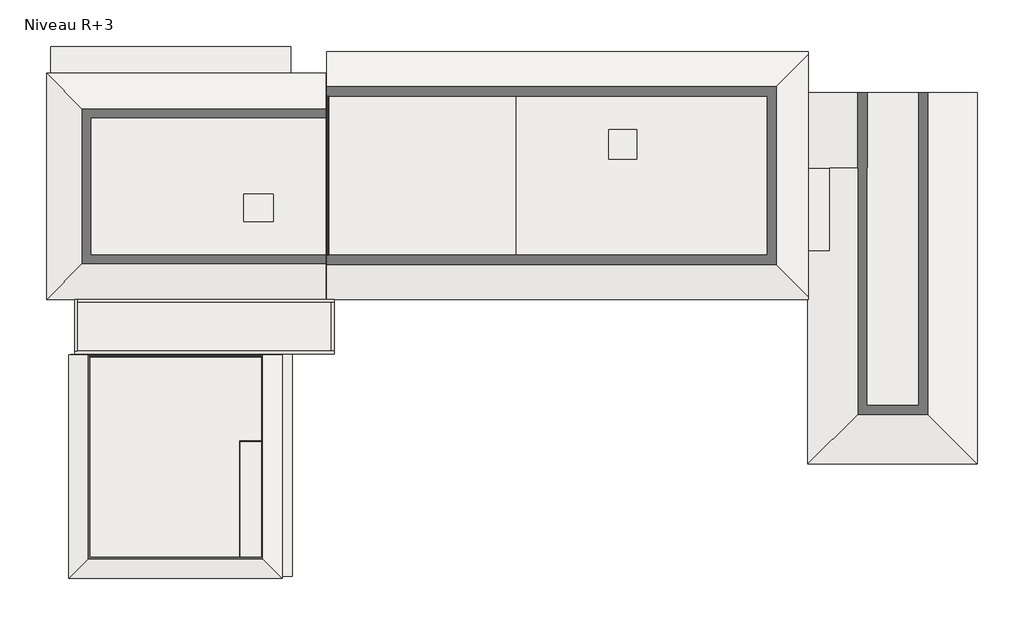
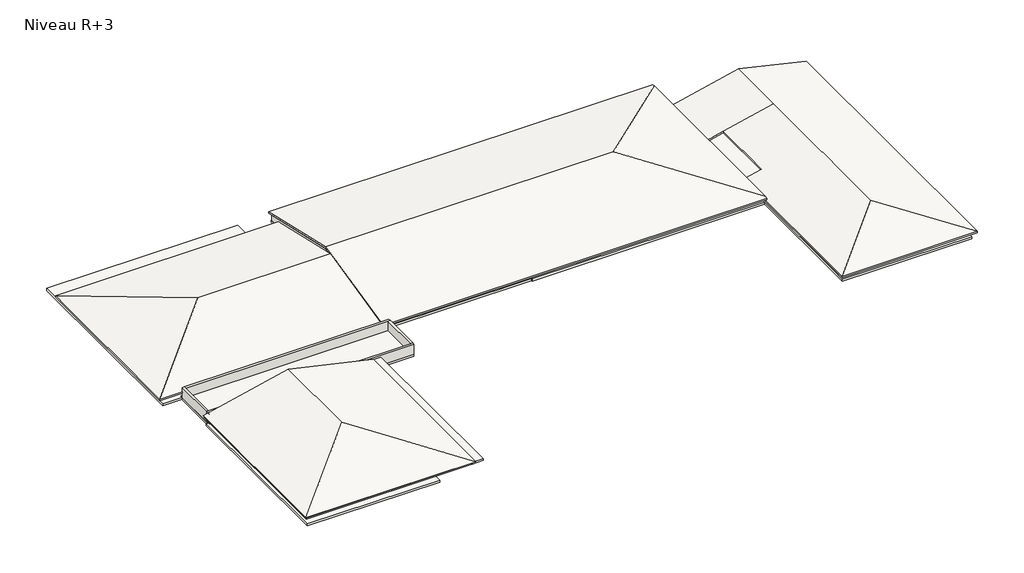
# One storey: 14 walls, 12 slabs, 4 roofs.
"""IFC4 building model written with IfcOpenShell, lengths in millimetres."""

from ifc_helpers import new_model, si_unit, frame, origin, place, context, project, spatial, polyline, outline, extrude, faceted_brep, element, save

model = new_model("IFC4")

# Units and contexts
model_context = context("Model", 3, world=origin())
ifc_project = project(units=[si_unit("LENGTHUNIT", "METRE", prefix="MILLI")], contexts=[model_context])

# Site, building, storey
site = spatial("IfcSite", under=ifc_project)
building = spatial("IfcBuilding", under=site)
storey = spatial("IfcBuildingStorey", under=building, Name="Niveau R+3", Elevation=8850.0)

# Roofs
placement = place(None, origin())
element("IfcRoof", 1, ObjectType="Toit - 200 mm + tuiles", at=placement, inside=storey, context=model_context, shape_type="Brep", body=[
    faceted_brep([(23819.3795366, 30810.6398567, 9297.1019058), (23819.3795366, 22475.7382882, 11221.3655541), (11571.8074134, 22475.7382882, 11221.3655541), (3236.9058449, 30810.6398567, 9297.1019058), (3236.9058449, 14140.8367198, 9297.1019058), (23819.3795366, 14140.8367198, 9297.1019058), (23819.3795366, 30810.6398567, 9451.047522), (3236.9058449, 30810.6398567, 9451.047522), (11571.8074134, 22475.7382882, 11375.3111703), (23819.3795366, 22475.7382882, 11375.3111703), (3236.9058449, 14140.8367198, 9451.047522), (23819.3795366, 14140.8367198, 9451.047522)], [[[0, 1, 2, 3]], [[3, 2, 4]], [[1, 5, 4, 2]], [[6, 7, 8, 9]], [[7, 10, 8]], [[11, 9, 8, 10]], [[3, 7, 6, 0]], [[4, 10, 7, 3]], [[5, 11, 10, 4]], [[6, 9, 11, 5, 1, 0]]]),
])
element("IfcRoof", 2, ObjectType="Toit - 200 mm + tuiles", at=placement, inside=storey, context=model_context, shape_type="Brep", body=[
    faceted_brep([(23872.0202028, 23272.667669, 11406.0434878), (23872.0202028, 32407.4972516, 9297.1019058), (59352.9059955, 32407.4972516, 9297.1019058), (59352.9059955, 32178.3704327, 9350.0), (50447.2032318, 23272.667669, 11406.0434878), (23872.0202028, 14137.8380864, 9297.1019058), (59352.9059955, 14366.9649053, 9350.0), (59352.9059955, 14137.8380864, 9297.1019058), (23872.0202028, 32407.4972516, 9451.047522), (23872.0202028, 23272.667669, 11559.9891039), (50447.2032318, 23272.667669, 11559.9891039), (59352.9059955, 32178.3704327, 9503.9456162), (59352.9059955, 32407.4972516, 9451.047522), (23872.0202028, 14137.8380864, 9451.047522), (59352.9059955, 14137.8380864, 9451.047522), (59352.9059955, 14366.9649053, 9503.9456162)], [[[0, 1, 2, 3, 4]], [[5, 0, 4, 6, 7]], [[8, 9, 10, 11, 12]], [[13, 14, 15, 10, 9]], [[7, 14, 13, 5]], [[1, 8, 12, 2]], [[13, 9, 8, 1, 0, 5]], [[6, 4, 3]], [[15, 11, 10]], [[3, 11, 15, 6]], [[15, 14, 7, 6]], [[12, 11, 3, 2]]]),
])
element("IfcRoof", 3, ObjectType="Toit - 200 mm + tuiles", at=placement, inside=storey, context=model_context, shape_type="Brep", body=[
    faceted_brep([(60932.9059955, 17712.0868793, 9419.3891058), (60932.9059955, 23812.0868793, 9419.3891058), (65576.6019279, 23812.0868793, 10491.4707859), (65576.6019279, 8247.7229252, 10491.4707859), (59332.9059955, 2004.0269927, 9050.0), (59332.9059955, 17712.0868793, 9050.0), (59353.0074525, 23812.0868793, 9050.0), (59353.0074525, 29401.5866004, 9050.0), (65586.6526564, 29401.5866004, 10489.1503924), (65586.6526564, 23812.0868793, 10489.1503924), (60932.9059955, 23812.0868793, 9414.7483188), (71820.2978604, 29401.5866004, 9050.0), (71820.2978604, 2004.0269927, 9050.0), (60932.9059955, 23812.0868793, 9573.334722), (60932.9059955, 17712.0868793, 9573.334722), (59332.9059955, 17712.0868793, 9203.9456162), (59332.9059955, 2004.0269927, 9203.9456162), (65576.6019279, 8247.7229252, 10645.416402), (65576.6019279, 23812.0868793, 10645.416402), (59353.0074525, 29401.5866004, 9203.9456162), (59353.0074525, 23812.0868793, 9203.9456162), (60932.9059955, 23812.0868793, 9568.693935), (65586.6526564, 23812.0868793, 10643.0960085), (65586.6526564, 29401.5866004, 10643.0960085), (71820.2978604, 29401.5866004, 9203.9456162), (71820.2978604, 2004.0269927, 9203.9456162)], [[[0, 1, 2, 3, 4, 5]], [[6, 7, 8, 9, 10]], [[8, 11, 12, 3, 2, 9]], [[4, 3, 12]], [[13, 14, 15, 16, 17, 18]], [[19, 20, 21, 22, 23]], [[24, 23, 22, 18, 17, 25]], [[16, 25, 17]], [[6, 20, 19, 7]], [[4, 16, 15, 5]], [[12, 25, 16, 4]], [[11, 24, 25, 12]], [[19, 23, 24, 11, 8, 7]], [[15, 14, 0, 5]], [[14, 13, 21, 1, 0]], [[13, 18, 22, 21]], [[21, 20, 6, 10, 9, 2, 1]]]),
])
element("IfcRoof", 4, ObjectType="Toit - bac acier", at=placement, inside=storey, context=model_context, shape_type="Brep", body=[
    faceted_brep([(4884.2512184, -6405.1620119, 9697.1019058), (12744.1164274, 1454.7031971, 11511.6947691), (20603.9816364, -6405.1620119, 9697.1019058), (12744.1164274, 10065.4658562, 11511.6947691), (20603.9816364, 10065.4658562, 9697.1019058), (4884.2512184, 10065.4658562, 9697.1019058), (4884.2512184, -6405.1620119, 9717.6279879), (20603.9816364, -6405.1620119, 9717.6279879), (12744.1164274, 1454.7031971, 11532.2208512), (20603.9816364, 10065.4658562, 9717.6279879), (12744.1164274, 10065.4658562, 11532.2208512), (4884.2512184, 10065.4658562, 9717.6279879)], [[[0, 1, 2]], [[3, 4, 2, 1]], [[5, 3, 1, 0]], [[6, 7, 8]], [[9, 10, 8, 7]], [[11, 6, 8, 10]], [[0, 6, 11, 5]], [[2, 7, 6, 0]], [[4, 9, 7, 2]], [[11, 10, 9, 4, 3, 5]]]),
])

# Slabs
element("IfcSlab", 5, ObjectType="Dalle en béton - 200 mm", at=placement, inside=storey, context=model_context, shape_type="SweptSolid", body=[
    extrude(outline(polyline([(5329.893812, 10125.4652425), (5329.893812, 14425.39158), (24415.2280188, 14425.39158), (24415.2280188, 10125.4652425), (5329.893812, 10125.4652425)])), frame((0.0, 0.0, 8650.0), z_axis=(0.0, 0.0, 1.0), x_axis=(1.0, 0.0, 0.0)), (0.0, 0.0, 1.0), 200.0),
])
element("IfcSlab", 6, ObjectType="Dalle en béton - 200 mm", at=placement, inside=storey, context=model_context, shape_type="Brep", body=[
    faceted_brep([(5184.2512184, 10065.4658562, 8650.0), (20303.9816364, 10065.4658562, 8650.0), (20303.9816364, 3735.465256, 8650.0), (17422.934101, 3735.465256, 8650.0), (17422.934101, -6105.1620119, 8650.0), (5184.2512184, -6105.1620119, 8650.0), (5184.2512184, 10065.4658562, 8850.0), (5184.2512184, -6105.1620119, 8850.0), (17422.934101, -6105.1620119, 8850.0), (17422.934101, 3735.465256, 8850.0), (20303.9816364, 3735.465256, 8850.0), (20303.9816364, 10065.4658562, 8850.0), (20155.920738, 10065.4658562, 8850.0), (5344.2512184, 10065.4658562, 8850.0)], [[[0, 1, 2, 3, 4, 5]], [[6, 7, 8, 9, 10, 11, 12, 13]], [[1, 0, 6, 13, 12, 11]], [[2, 1, 11, 10]], [[5, 4, 8, 7]], [[0, 5, 7, 6]], [[3, 2, 10, 9]], [[4, 3, 9, 8]]]),
])
element("IfcSlab", 7, ObjectType="Dalle en béton - 200 mm", at=placement, inside=storey, context=model_context, shape_type="SweptSolid", body=[
    extrude(outline(polyline([(17522.934101, 3635.465256), (20303.9816364, 3635.465256), (20303.9816364, -6105.1620119), (17522.934101, -6105.1620119), (17522.934101, 3635.465256)])), frame((0.0, 0.0, 9450.0), z_axis=(0.0, 0.0, 1.0), x_axis=(1.0, 0.0, 0.0)), (0.0, 0.0, 1.0), 200.0),
])
element("IfcSlab", 8, ObjectType="Dalle en béton - 160 mm", at=placement, inside=storey, context=model_context, shape_type="SweptSolid", body=[
    extrude(outline(polyline([(21344.2275072, -6265.1620119), (20325.920738, -6265.1620119), (20325.920738, 10108.39158), (21344.2275072, 10108.39158), (21344.2275072, -6265.1620119)])), frame((0.0, 0.0, 9490.0), z_axis=(0.0, 0.0, 1.0), x_axis=(1.0, 0.0, 0.0)), (0.0, 0.0, 1.0), 160.0),
])
element("IfcSlab", 9, ObjectType="Dalle en béton - 160 mm", at=placement, inside=storey, context=model_context, shape_type="SweptSolid", body=[
    extrude(outline(polyline([(5204.2512184, -6068.9495262), (20304.2512184, -6068.9495262), (20304.2512184, -6268.9495262), (5004.2512184, -6268.9495262), (5004.2512184, 10087.4523864), (5204.2512184, 10087.4523864), (5204.2512184, -6068.9495262)])), frame((0.0, 0.0, 9490.0), z_axis=(0.0, 0.0, 1.0), x_axis=(1.0, 0.0, 0.0)), (0.0, 0.0, 1.0), 160.0),
])
element("IfcSlab", 10, ObjectType="Dalle en béton - 200 mm", at=placement, inside=storey, context=model_context, shape_type="SweptSolid", body=[
    extrude(outline(polyline([(21211.383495, 32790.6513588), (21211.383495, 30770.6298239), (23819.3795366, 30770.6298239), (23819.3795366, 14216.1565884), (3536.9098541, 14216.1565884), (3536.9098541, 32790.6513588), (21211.383495, 32790.6513588)]), holes=[polyline([(19749.8425091, 20064.6101745), (19749.8425091, 21696.9971496), (17965.0745996, 21696.9971496), (17965.0745996, 20064.6101745), (19749.8425091, 20064.6101745)])]), frame((0.0, 0.0, 8650.0), z_axis=(0.0, 0.0, 1.0), x_axis=(1.0, 0.0, 0.0)), (0.0, 0.0, 1.0), 200.0),
])
element("IfcSlab", 11, ObjectType="Dalle en béton - 200 mm", at=placement, inside=storey, context=model_context, shape_type="Brep", body=[
    faceted_brep([(23879.3814808, 32082.4972516, 8650.0), (37799.3814808, 32082.4972516, 8650.0), (37799.3814808, 14557.8380725, 8650.0), (23879.3814808, 14557.8380725, 8650.0), (23879.3814808, 32082.4972516, 8850.0), (23879.3814808, 31947.4974719, 8850.0), (23879.3814808, 14557.8380725, 8850.0), (37799.3814808, 14557.8380725, 8850.0), (37799.3814808, 32082.4972516, 8850.0)], [[[0, 1, 2, 3]], [[4, 5, 6, 7, 8]], [[1, 0, 4, 8]], [[2, 1, 8, 7]], [[3, 2, 7, 6]], [[0, 3, 6, 5, 4]]]),
])
element("IfcSlab", 12, ObjectType="Dalle en béton - 200 mm", at=placement, inside=storey, context=model_context, shape_type="SweptSolid", body=[
    extrude(outline(polyline([(37859.4832806, 14507.4960094), (37859.4832806, 32067.4960094), (59312.9661689, 32067.4960094), (59312.9661689, 14507.4960094), (37859.4832806, 14507.4960094)]), holes=[polyline([(46510.3925697, 26457.7598122), (44857.3927707, 26457.7598122), (44857.3927707, 24700.9879389), (46510.3925697, 24700.9879389), (46510.3925697, 26457.7598122)])]), frame((0.0, 0.0, 8650.0), z_axis=(0.0, 0.0, 1.0), x_axis=(1.0, 0.0, 0.0)), (0.0, 0.0, 1.0), 200.0),
])
element("IfcSlab", 13, ObjectType="Dalle en béton - 200 mm", at=placement, inside=storey, context=model_context, shape_type="SweptSolid", body=[
    extrude(outline(polyline([(71798.498036, 29381.5866004), (71798.498036, 10424.0269927), (71317.0281909, 10424.0269927), (71317.0281909, 2024.0269927), (59352.9059955, 2024.0269927), (59352.9059955, 29381.5866004), (71798.498036, 29381.5866004)])), frame((0.0, 0.0, 8650.0), z_axis=(0.0, 0.0, 1.0), x_axis=(1.0, 0.0, 0.0)), (0.0, 0.0, 1.0), 200.0),
])
element("IfcSlab", 14, ObjectType="Dalle en béton - 200 mm", at=placement, inside=storey, context=model_context, shape_type="SweptSolid", body=[
    extrude(outline(polyline([(46710.3925697, 26657.7598122), (46710.3925697, 24500.9879389), (44657.3927707, 24500.9879389), (44657.3927707, 26657.7598122), (46710.3925697, 26657.7598122)])), frame((0.0, 0.0, 9750.0), z_axis=(0.0, 0.0, 1.0), x_axis=(1.0, 0.0, 0.0)), (0.0, 0.0, 1.0), 200.0),
])
element("IfcSlab", 15, ObjectType="Dalle en béton - 200 mm", at=placement, inside=storey, context=model_context, shape_type="SweptSolid", body=[
    extrude(outline(polyline([(19949.8425091, 21896.9971496), (19949.8425091, 19864.6101745), (17765.0745996, 19864.6101745), (17765.0745996, 21896.9971496), (19949.8425091, 21896.9971496)])), frame((0.0, 0.0, 9750.0), z_axis=(0.0, 0.0, 1.0), x_axis=(1.0, 0.0, 0.0)), (0.0, 0.0, 1.0), 200.0),
])
element("IfcSlab", 16, ObjectType="TTT 1 + isl 6 + 1", at=placement, inside=storey, context=model_context, shape_type="SweptSolid", body=[
    extrude(outline(polyline([(5515.2280188, 10325.4652425), (5515.2280188, 13945.4652425), (24215.2280188, 13945.4652425), (24215.2280188, 10325.4652425), (5515.2280188, 10325.4652425)])), frame((0.0, 0.0, 8850.0), z_axis=(0.0, 0.0, 1.0), x_axis=(1.0, 0.0, 0.0)), (0.0, 0.0, 1.0), 80.0),
])

# Walls
element("IfcWall", 17, ObjectType="Ext. Voile BA 16 + Isolant 120", at=placement, inside=storey, context=model_context, shape_type="Brep", body=[
    faceted_brep([(24039.3814808, 14547.8380725, 8850.0), (24039.3814808, 31947.4974719, 8850.0), (24039.3814808, 31947.4974719, 9403.3012228), (24039.3814808, 23272.667669, 11406.0434878), (24039.3814808, 14547.8380725, 9391.7578609), (23879.3814808, 14547.8380725, 8850.0), (23879.3814808, 14547.8380725, 9391.7578609), (23879.3814808, 23272.667669, 11406.0434878), (23879.3814808, 31947.4974719, 9403.3012228), (23879.3814808, 31947.4974719, 8850.0), (23879.3814808, 14557.8380725, 8850.0)], [[[0, 1, 2, 3, 4]], [[5, 6, 7, 8, 9, 10]], [[1, 0, 5, 10, 9]], [[2, 1, 9, 8]], [[0, 4, 6, 5]], [[4, 3, 7, 6]], [[3, 2, 8, 7]]]),
])
element("IfcWall", 18, ObjectType="Ext. Voile BA 20", at=placement, inside=storey, context=model_context, shape_type="Brep", body=[
    faceted_brep([(24415.2280188, 10325.4652425, 8850.0), (24215.2280188, 10325.4652425, 8850.0), (5515.2280188, 10325.4652425, 8850.0), (5315.2280188, 10325.4652425, 8850.0), (5315.2280188, 10325.4652425, 9850.0), (5515.2280188, 10325.4652425, 9850.0), (24215.2280188, 10325.4652425, 9850.0), (24415.2280188, 10325.4652425, 9850.0), (24415.2280188, 10125.4652425, 8850.0), (24415.2280188, 10125.4652425, 9850.0), (5315.2280188, 10125.4652425, 9850.0), (5315.2280188, 10125.4652425, 8850.0)], [[[0, 1, 2, 3, 4, 5, 6, 7]], [[8, 9, 10, 11]], [[3, 2, 1, 0, 8, 11]], [[7, 6, 5, 4, 10, 9]], [[4, 3, 11, 10]], [[0, 7, 9, 8]]]),
])
element("IfcWall", 19, ObjectType="Ext. Voile BA 20", at=placement, inside=storey, context=model_context, shape_type="Brep", body=[
    faceted_brep([(5515.2280188, 10325.4652425, 8850.0), (5515.2280188, 13945.4652425, 8850.0), (5515.2280188, 14145.4652425, 8850.0), (5515.2280188, 14145.4652425, 9850.0), (5515.2280188, 13945.4652425, 9850.0), (5515.2280188, 10325.4652425, 9850.0), (5315.2280188, 10325.4652425, 8850.0), (5315.2280188, 10325.4652425, 9850.0), (5315.2280188, 14145.4652425, 9850.0), (5315.2280188, 14145.4652425, 8850.0)], [[[0, 1, 2, 3, 4, 5]], [[6, 7, 8, 9]], [[2, 1, 0, 6, 9]], [[5, 4, 3, 8, 7]], [[0, 5, 7, 6]], [[3, 2, 9, 8]]]),
])
element("IfcWall", 20, ObjectType="Ext. Voile BA 20", at=placement, inside=storey, context=model_context, shape_type="Brep", body=[
    faceted_brep([(5515.2280188, 13945.4652425, 8850.0), (24215.2280188, 13945.4652425, 8850.0), (24415.2280188, 13945.4652425, 8850.0), (24415.2280188, 13945.4652425, 9850.0), (24215.2280188, 13945.4652425, 9850.0), (5515.2280188, 13945.4652425, 9850.0), (5515.2280188, 14145.4652425, 8850.0), (5515.2280188, 14145.4652425, 9850.0), (24415.2280188, 14145.4652425, 9850.0), (24415.2280188, 14145.4652425, 8850.0)], [[[0, 1, 2, 3, 4, 5]], [[6, 7, 8, 9]], [[2, 1, 0, 6, 9]], [[5, 4, 3, 8, 7]], [[0, 5, 7, 6]], [[3, 2, 9, 8]]]),
])
element("IfcWall", 21, ObjectType="Ext. Voile BA 20", at=placement, inside=storey, context=model_context, shape_type="SweptSolid", body=[
    extrude(outline(polyline([(24215.2280188, 10325.4652425), (24215.2280188, 13945.4652425), (24415.2280188, 13945.4652425), (24415.2280188, 10325.4652425), (24215.2280188, 10325.4652425)])), frame((0.0, 0.0, 8850.0), z_axis=(0.0, 0.0, 1.0), x_axis=(1.0, 0.0, 0.0)), (0.0, 0.0, 1.0), 1000.0),
])
element("IfcWall", 22, ObjectType="Voile BA 16", at=placement, inside=storey, context=model_context, shape_type="Brep", body=[
    faceted_brep([(5344.2512184, 9905.4658562, 8850.0), (20155.920738, 9905.4658562, 8850.0), (20155.920738, 9905.4658562, 9800.5449149), (12744.1164274, 9905.4658562, 11511.6947691), (5344.2512184, 9905.4658562, 9803.3012737), (5344.2512184, 10065.4658562, 8850.0), (5344.2512184, 10065.4658562, 9490.0), (5344.2512184, 10065.4658562, 9803.3012737), (12744.1164274, 10065.4658562, 11511.6947691), (20155.920738, 10065.4658562, 9800.5449149), (20155.920738, 10065.4658562, 9490.0), (20155.920738, 10065.4658562, 8850.0), (5344.2512184, 10055.4625547, 8850.0)], [[[0, 1, 2, 3, 4]], [[5, 6, 7, 8, 9, 10, 11]], [[1, 0, 12, 5, 11]], [[4, 3, 8, 7]], [[3, 2, 9, 8]], [[2, 1, 11, 10, 9]], [[0, 4, 7, 6, 5, 12]]]),
])
element("IfcWall", 23, ObjectType="Voile BA 20", at=placement, inside=storey, context=model_context, shape_type="Brep", body=[
    faceted_brep([(17765.0745996, 21696.9971496, 8850.0), (17965.0745996, 21696.9971496, 8850.0), (19749.8425091, 21696.9971496, 8850.0), (19949.8425091, 21696.9971496, 8850.0), (19949.8425091, 21696.9971496, 9750.0), (19749.8425091, 21696.9971496, 9750.0), (17965.0745996, 21696.9971496, 9750.0), (17765.0745996, 21696.9971496, 9750.0), (17765.0745996, 21896.9971496, 8850.0), (17765.0745996, 21896.9971496, 9750.0), (19949.8425091, 21896.9971496, 9750.0), (19949.8425091, 21896.9971496, 8850.0)], [[[0, 1, 2, 3, 4, 5, 6, 7]], [[8, 9, 10, 11]], [[3, 2, 1, 0, 8, 11]], [[7, 6, 5, 4, 10, 9]], [[4, 3, 11, 10]], [[0, 7, 9, 8]]]),
])
element("IfcWall", 24, ObjectType="Voile BA 20", at=placement, inside=storey, context=model_context, shape_type="Brep", body=[
    faceted_brep([(19749.8425091, 21696.9971496, 8850.0), (19749.8425091, 20064.6101745, 8850.0), (19749.8425091, 19864.6101745, 8850.0), (19749.8425091, 19864.6101745, 9750.0), (19749.8425091, 20064.6101745, 9750.0), (19749.8425091, 21696.9971496, 9750.0), (19949.8425091, 21696.9971496, 8850.0), (19949.8425091, 21696.9971496, 9750.0), (19949.8425091, 19864.6101745, 9750.0), (19949.8425091, 19864.6101745, 8850.0)], [[[0, 1, 2, 3, 4, 5]], [[6, 7, 8, 9]], [[2, 1, 0, 6, 9]], [[5, 4, 3, 8, 7]], [[0, 5, 7, 6]], [[3, 2, 9, 8]]]),
])
element("IfcWall", 25, ObjectType="Voile BA 20", at=placement, inside=storey, context=model_context, shape_type="Brep", body=[
    faceted_brep([(19749.8425091, 20064.6101745, 8850.0), (17965.0745996, 20064.6101745, 8850.0), (17765.0745996, 20064.6101745, 8850.0), (17765.0745996, 20064.6101745, 9750.0), (17965.0745996, 20064.6101745, 9750.0), (19749.8425091, 20064.6101745, 9750.0), (19749.8425091, 19864.6101745, 8850.0), (19749.8425091, 19864.6101745, 9750.0), (17765.0745996, 19864.6101745, 9750.0), (17765.0745996, 19864.6101745, 8850.0)], [[[0, 1, 2, 3, 4, 5]], [[6, 7, 8, 9]], [[2, 1, 0, 6, 9]], [[5, 4, 3, 8, 7]], [[0, 5, 7, 6]], [[3, 2, 9, 8]]]),
])
element("IfcWall", 26, ObjectType="Voile BA 20", at=placement, inside=storey, context=model_context, shape_type="SweptSolid", body=[
    extrude(outline(polyline([(17965.0745996, 21696.9971496), (17965.0745996, 20064.6101745), (17765.0745996, 20064.6101745), (17765.0745996, 21696.9971496), (17965.0745996, 21696.9971496)])), frame((0.0, 0.0, 8850.0), z_axis=(0.0, 0.0, 1.0), x_axis=(1.0, 0.0, 0.0)), (0.0, 0.0, 1.0), 900.0),
])
element("IfcWall", 27, ObjectType="Voile BA 20", at=placement, inside=storey, context=model_context, shape_type="Brep", body=[
    faceted_brep([(44657.3927707, 26457.7598122, 8850.0), (44857.3927707, 26457.7598122, 8850.0), (46510.3925697, 26457.7598122, 8850.0), (46710.3925697, 26457.7598122, 8850.0), (46710.3925697, 26457.7598122, 9750.0), (46510.3925697, 26457.7598122, 9750.0), (44857.3927707, 26457.7598122, 9750.0), (44657.3927707, 26457.7598122, 9750.0), (44657.3927707, 26657.7598122, 8850.0), (44657.3927707, 26657.7598122, 9750.0), (46710.3925697, 26657.7598122, 9750.0), (46710.3925697, 26657.7598122, 8850.0)], [[[0, 1, 2, 3, 4, 5, 6, 7]], [[8, 9, 10, 11]], [[3, 2, 1, 0, 8, 11]], [[7, 6, 5, 4, 10, 9]], [[4, 3, 11, 10]], [[0, 7, 9, 8]]]),
])
element("IfcWall", 28, ObjectType="Voile BA 20", at=placement, inside=storey, context=model_context, shape_type="Brep", body=[
    faceted_brep([(46510.3925697, 26457.7598122, 8850.0), (46510.3925697, 24700.9879389, 8850.0), (46510.3925697, 24500.9879389, 8850.0), (46510.3925697, 24500.9879389, 9750.0), (46510.3925697, 24700.9879389, 9750.0), (46510.3925697, 26457.7598122, 9750.0), (46710.3925697, 26457.7598122, 8850.0), (46710.3925697, 26457.7598122, 9750.0), (46710.3925697, 24500.9879389, 9750.0), (46710.3925697, 24500.9879389, 8850.0)], [[[0, 1, 2, 3, 4, 5]], [[6, 7, 8, 9]], [[2, 1, 0, 6, 9]], [[5, 4, 3, 8, 7]], [[0, 5, 7, 6]], [[3, 2, 9, 8]]]),
])
element("IfcWall", 29, ObjectType="Voile BA 20", at=placement, inside=storey, context=model_context, shape_type="Brep", body=[
    faceted_brep([(46510.3925697, 24700.9879389, 8850.0), (44857.3927707, 24700.9879389, 8850.0), (44657.3927707, 24700.9879389, 8850.0), (44657.3927707, 24700.9879389, 9750.0), (44857.3927707, 24700.9879389, 9750.0), (46510.3925697, 24700.9879389, 9750.0), (46510.3925697, 24500.9879389, 8850.0), (46510.3925697, 24500.9879389, 9750.0), (44657.3927707, 24500.9879389, 9750.0), (44657.3927707, 24500.9879389, 8850.0)], [[[0, 1, 2, 3, 4, 5]], [[6, 7, 8, 9]], [[2, 1, 0, 6, 9]], [[5, 4, 3, 8, 7]], [[0, 5, 7, 6]], [[3, 2, 9, 8]]]),
])
element("IfcWall", 30, ObjectType="Voile BA 20", at=placement, inside=storey, context=model_context, shape_type="SweptSolid", body=[
    extrude(outline(polyline([(44857.3927707, 26457.7598122), (44857.3927707, 24700.9879389), (44657.3927707, 24700.9879389), (44657.3927707, 26457.7598122), (44857.3927707, 26457.7598122)])), frame((0.0, 0.0, 8850.0), z_axis=(0.0, 0.0, 1.0), x_axis=(1.0, 0.0, 0.0)), (0.0, 0.0, 1.0), 900.0),
])

save(model, "model.ifc")
